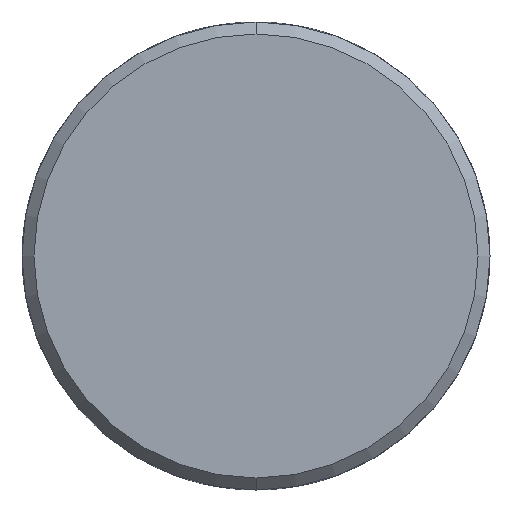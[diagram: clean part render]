
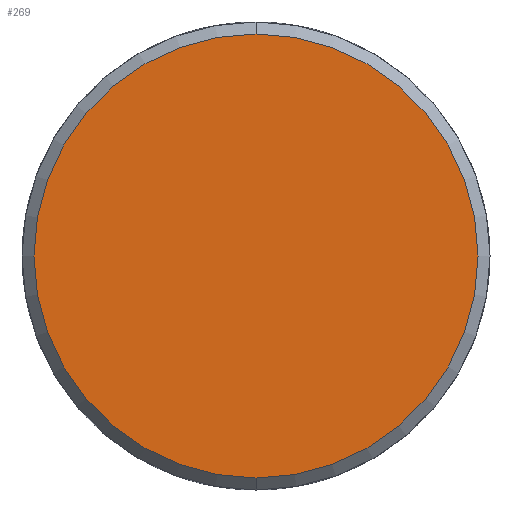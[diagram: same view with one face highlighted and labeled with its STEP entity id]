
A CAD part, front view. The second image highlights one B-rep face of the part: STEP entity #269.
In plain terms, the highlighted planar face has unit normal (0, -1, 0).
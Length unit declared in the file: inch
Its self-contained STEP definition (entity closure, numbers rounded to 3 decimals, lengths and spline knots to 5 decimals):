
#84 = EDGE_CURVE ( 'NONE', #223, #92, #1528, .T. ) ;
#92 = VERTEX_POINT ( 'NONE', #1565 ) ;
#223 = VERTEX_POINT ( 'NONE', #1889 ) ;
#269 = ADVANCED_FACE ( 'NONE', ( #2032 ), #2031, .F. ) ;
#274 = ORIENTED_EDGE ( 'NONE', *, *, #275, .T. ) ;
#275 = EDGE_CURVE ( 'NONE', #92, #223, #2122, .T. ) ;
#276 = ORIENTED_EDGE ( 'NONE', *, *, #84, .T. ) ;
#280 = EDGE_LOOP ( 'NONE', ( #274, #276 ) ) ;
#1520 = DIRECTION ( 'NONE',  ( 0., 0., 1. ) ) ;
#1521 = DIRECTION ( 'NONE',  ( 0., -1., 0. ) ) ;
#1522 = CARTESIAN_POINT ( 'NONE',  ( 0., 0., 0. ) ) ;
#1523 = AXIS2_PLACEMENT_3D ( 'NONE', #1522, #1521, #1520 ) ;
#1528 = CIRCLE ( 'NONE', #1523, 1.11 ) ;
#1565 = CARTESIAN_POINT ( 'NONE',  ( 0., 0., 1.11 ) ) ;
#1889 = CARTESIAN_POINT ( 'NONE',  ( 0., 0., -1.11 ) ) ;
#2031 = PLANE ( 'NONE',  #2128 ) ;
#2032 = FACE_OUTER_BOUND ( 'NONE', #280, .T. ) ;
#2115 = DIRECTION ( 'NONE',  ( 0., 0., 1. ) ) ;
#2116 = DIRECTION ( 'NONE',  ( 0., -1., 0. ) ) ;
#2117 = CARTESIAN_POINT ( 'NONE',  ( 0., 0., 0. ) ) ;
#2118 = AXIS2_PLACEMENT_3D ( 'NONE', #2117, #2116, #2115 ) ;
#2122 = CIRCLE ( 'NONE', #2118, 1.11 ) ;
#2125 = DIRECTION ( 'NONE',  ( 0., 0., 1. ) ) ;
#2126 = DIRECTION ( 'NONE',  ( 0., 1., 0. ) ) ;
#2127 = CARTESIAN_POINT ( 'NONE',  ( 0., 0., 0. ) ) ;
#2128 = AXIS2_PLACEMENT_3D ( 'NONE', #2127, #2126, #2125 ) ;
